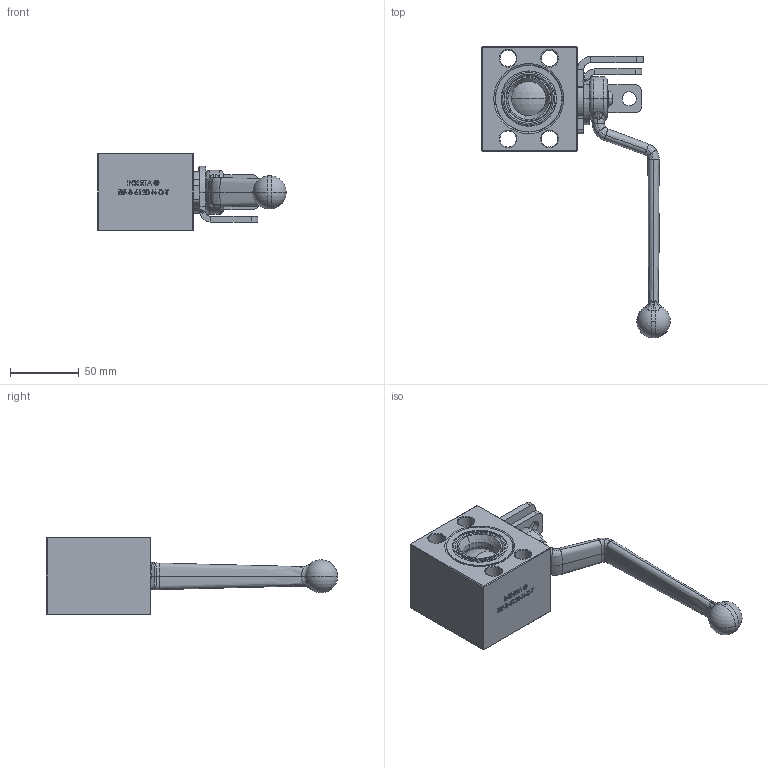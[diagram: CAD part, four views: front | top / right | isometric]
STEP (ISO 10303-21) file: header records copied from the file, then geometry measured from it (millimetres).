
FILE_DESCRIPTION (( 'STEP AP214' ), '1' );
FILE_NAME ('IBF-B-6120-N-D-T Closed~.STEP', '2025-12-01T15:37:12', ( '' ), ( '' ), 'SwSTEP 2.0', 'SolidWorks 2023', '' );
FILE_SCHEMA (( 'AUTOMOTIVE_DESIGN' ));
Length unit declared in the file: inch
Products named in the file (1): IBF-B-6120-N-D-T Closed~
Bounding box: 137.37 x 212.22 x 56.77 mm (x, y, z)
Volume: 298390.6 mm3; surface area: 82283 mm2
Topology: 2 solids, 4 shells, 1050 faces, 2909 edges, 1896 vertices
Faces by surface type: plane 503, bspline 200, cylinder 177, torus 66, cone 66, sphere 38
Entity records: 59652 total; most frequent: CARTESIAN_POINT 34716, ORIENTED_EDGE 5786, DIRECTION 4317, EDGE_CURVE 2893, VERTEX_POINT 1888, AXIS2_PLACEMENT_3D 1488, VECTOR 1341, LINE 1341
